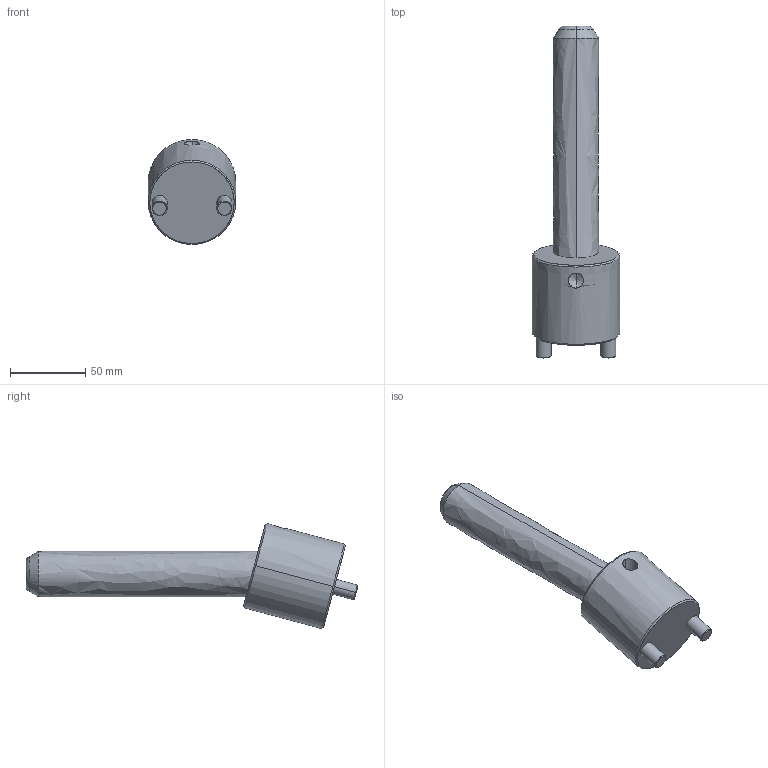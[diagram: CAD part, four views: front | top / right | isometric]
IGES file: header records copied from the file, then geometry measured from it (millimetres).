
Start section: START RECORD GO HERE.
Global section: file name: CI1530150.igs; native system: DASSAULT SYSTEMES CATIA V5 R20 - www.3ds.com; preprocessor: CATIA Version 5 Release 20 ; author: r.borello; organization: CFTORINO; date: 20190621.162138; units: millimetre
Bounding box: 58 x 220.33 x 69.74 mm (x, y, z)
Surface area: 40216.6 mm2 (no closed solid volume)
Topology: 0 solids, 0 shells, 39 faces, 162 edges, 160 vertices
Faces by surface type: revolution 32, plane 7
